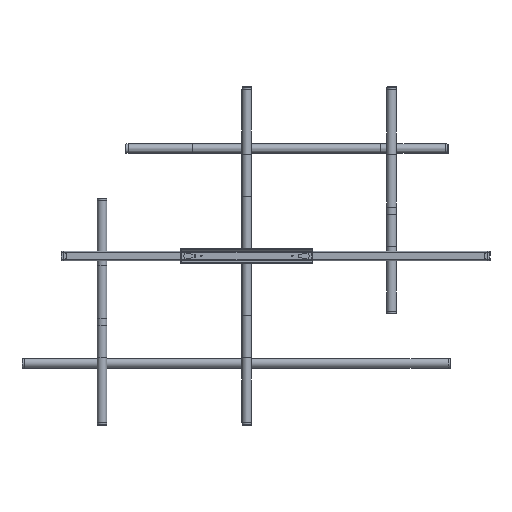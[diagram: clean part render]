
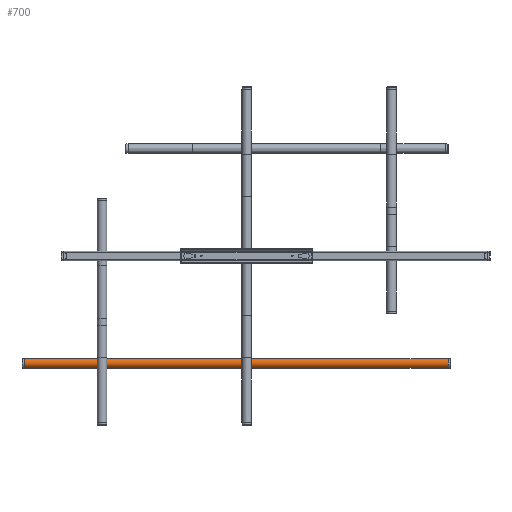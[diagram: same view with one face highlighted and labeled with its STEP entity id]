
A CAD part, top view. The second image highlights one B-rep face of the part: STEP entity #700.
In plain terms, the highlighted free-form (B-spline) face has degree [1, 2] with [2, 5] control points.
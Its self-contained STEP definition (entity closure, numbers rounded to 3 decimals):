
#700=ADVANCED_FACE('',(#2284),#22601,.T.);
#2284=FACE_OUTER_BOUND('',#3886,.T.);
#3886=EDGE_LOOP('',(#6719,#6720,#6721,#6722));
#6719=ORIENTED_EDGE('',*,*,#13216,.F.);
#6720=ORIENTED_EDGE('',*,*,#13215,.F.);
#6721=ORIENTED_EDGE('',*,*,#13214,.T.);
#6722=ORIENTED_EDGE('',*,*,#13189,.T.);
#13189=EDGE_CURVE('',#20200,#20201,#16369,.T.);
#13214=EDGE_CURVE('',#20218,#20200,#18182,.T.);
#13215=EDGE_CURVE('',#20218,#20219,#16382,.T.);
#13216=EDGE_CURVE('',#20219,#20201,#18183,.T.);
#16369=(
BOUNDED_CURVE()
B_SPLINE_CURVE(2,(#35314,#35315,#35316,#35317,#35318),.UNSPECIFIED.,.F.,
 .F.)
B_SPLINE_CURVE_WITH_KNOTS((3,2,3),(10.956,12.526,14.097),
 .UNSPECIFIED.)
CURVE()
GEOMETRIC_REPRESENTATION_ITEM()
RATIONAL_B_SPLINE_CURVE((1.,0.707,1.,0.707,1.))
REPRESENTATION_ITEM('')
);
#16382=(
BOUNDED_CURVE()
B_SPLINE_CURVE(2,(#35387,#35388,#35389,#35390,#35391),.UNSPECIFIED.,.F.,
 .F.)
B_SPLINE_CURVE_WITH_KNOTS((3,2,3),(10.956,12.526,14.097),
 .UNSPECIFIED.)
CURVE()
GEOMETRIC_REPRESENTATION_ITEM()
RATIONAL_B_SPLINE_CURVE((1.,0.707,1.,0.707,1.))
REPRESENTATION_ITEM('')
);
#18182=B_SPLINE_CURVE_WITH_KNOTS('',1,(#35385,#35386),.UNSPECIFIED.,.F.,
 .F.,(2,2),(-1023.816,0.),.UNSPECIFIED.);
#18183=B_SPLINE_CURVE_WITH_KNOTS('',1,(#35392,#35393),.UNSPECIFIED.,.F.,
 .F.,(2,2),(-1023.816,0.),.UNSPECIFIED.);
#20200=VERTEX_POINT('',#35263);
#20201=VERTEX_POINT('',#35264);
#20218=VERTEX_POINT('',#35281);
#20219=VERTEX_POINT('',#35282);
#22601=(
BOUNDED_SURFACE()
B_SPLINE_SURFACE(1,2,((#35197,#35198,#35199,#35200,#35201),(#35202,#35203,
#35204,#35205,#35206)),.UNSPECIFIED.,.F.,.F.,.F.)
B_SPLINE_SURFACE_WITH_KNOTS((2,2),(3,2,3),(0.,1023.816),(-14.097,
-12.526,-10.956),.UNSPECIFIED.)
GEOMETRIC_REPRESENTATION_ITEM()
RATIONAL_B_SPLINE_SURFACE(((1.,0.707,1.,0.707,1.),
(1.,0.707,1.,0.707,1.)))
REPRESENTATION_ITEM('')
SURFACE()
);
#35197=CARTESIAN_POINT('',(3695.,-335.248,-78.719));
#35198=CARTESIAN_POINT('',(3695.,-335.248,-67.219));
#35199=CARTESIAN_POINT('',(3695.,-323.748,-67.219));
#35200=CARTESIAN_POINT('',(3695.,-312.248,-67.219));
#35201=CARTESIAN_POINT('',(3695.,-312.248,-78.719));
#35202=CARTESIAN_POINT('',(4718.816,-335.248,-78.719));
#35203=CARTESIAN_POINT('',(4718.816,-335.248,-67.219));
#35204=CARTESIAN_POINT('',(4718.816,-323.748,-67.219));
#35205=CARTESIAN_POINT('',(4718.816,-312.248,-67.219));
#35206=CARTESIAN_POINT('',(4718.816,-312.248,-78.719));
#35263=CARTESIAN_POINT('',(3695.,-312.248,-78.719));
#35264=CARTESIAN_POINT('',(3695.,-335.248,-78.719));
#35281=CARTESIAN_POINT('',(4718.816,-312.248,-78.719));
#35282=CARTESIAN_POINT('',(4718.816,-335.248,-78.719));
#35314=CARTESIAN_POINT('',(3695.,-312.248,-78.719));
#35315=CARTESIAN_POINT('',(3695.,-312.248,-67.219));
#35316=CARTESIAN_POINT('',(3695.,-323.748,-67.219));
#35317=CARTESIAN_POINT('',(3695.,-335.248,-67.219));
#35318=CARTESIAN_POINT('',(3695.,-335.248,-78.719));
#35385=CARTESIAN_POINT('',(4718.816,-312.248,-78.719));
#35386=CARTESIAN_POINT('',(3695.,-312.248,-78.719));
#35387=CARTESIAN_POINT('',(4718.816,-312.248,-78.719));
#35388=CARTESIAN_POINT('',(4718.816,-312.248,-67.219));
#35389=CARTESIAN_POINT('',(4718.816,-323.748,-67.219));
#35390=CARTESIAN_POINT('',(4718.816,-335.248,-67.219));
#35391=CARTESIAN_POINT('',(4718.816,-335.248,-78.719));
#35392=CARTESIAN_POINT('',(4718.816,-335.248,-78.719));
#35393=CARTESIAN_POINT('',(3695.,-335.248,-78.719));
